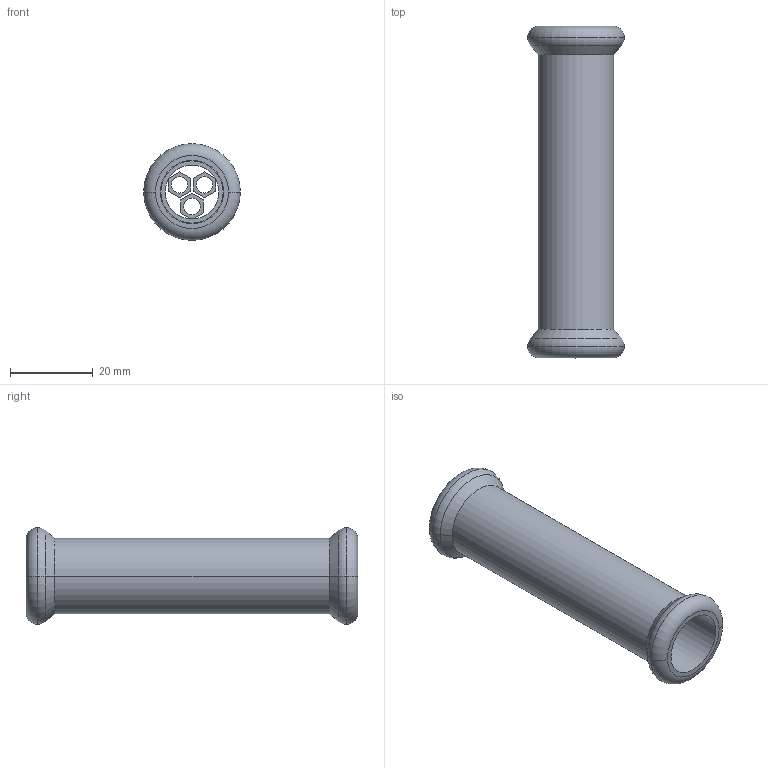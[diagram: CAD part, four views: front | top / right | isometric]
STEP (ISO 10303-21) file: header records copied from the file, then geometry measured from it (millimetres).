
FILE_DESCRIPTION(('OneSpaceDesigner STEP Export'),'2;1');
FILE_NAME('R2703 15x15.stp','2010-06-09T 8:57:23',(''),(''),'OneSpace Designer STEP processor for AP214 (Solid Model)','OneSpace Modeling 15.00A 14-Mar-2007 (C) CoCreate Software GmbH','');
FILE_SCHEMA(('AUTOMOTIVE_DESIGN { 1 0 10303 214 1 1 1 1 }'));
Length unit declared in the file: millimetre
Products named in the file (2): R2703_15x15
Assembly tree (1 placements, depth 2):
  R2703_15x15
    R2703_15x15
Bounding box: 23.3 x 80 x 23.3 mm (x, y, z)
Volume: 9955.9 mm3; surface area: 9431.6 mm2
Topology: 1 solids, 1 shells, 102 faces, 258 edges, 168 vertices
Faces by surface type: plane 60, cylinder 30, torus 8, cone 4
Entity records: 2831 total; most frequent: ORIENTED_EDGE 516, CARTESIAN_POINT 466, DIRECTION 430, EDGE_CURVE 258, VERTEX_POINT 168, VECTOR 166, LINE 166, AXIS2_PLACEMENT_3D 132
